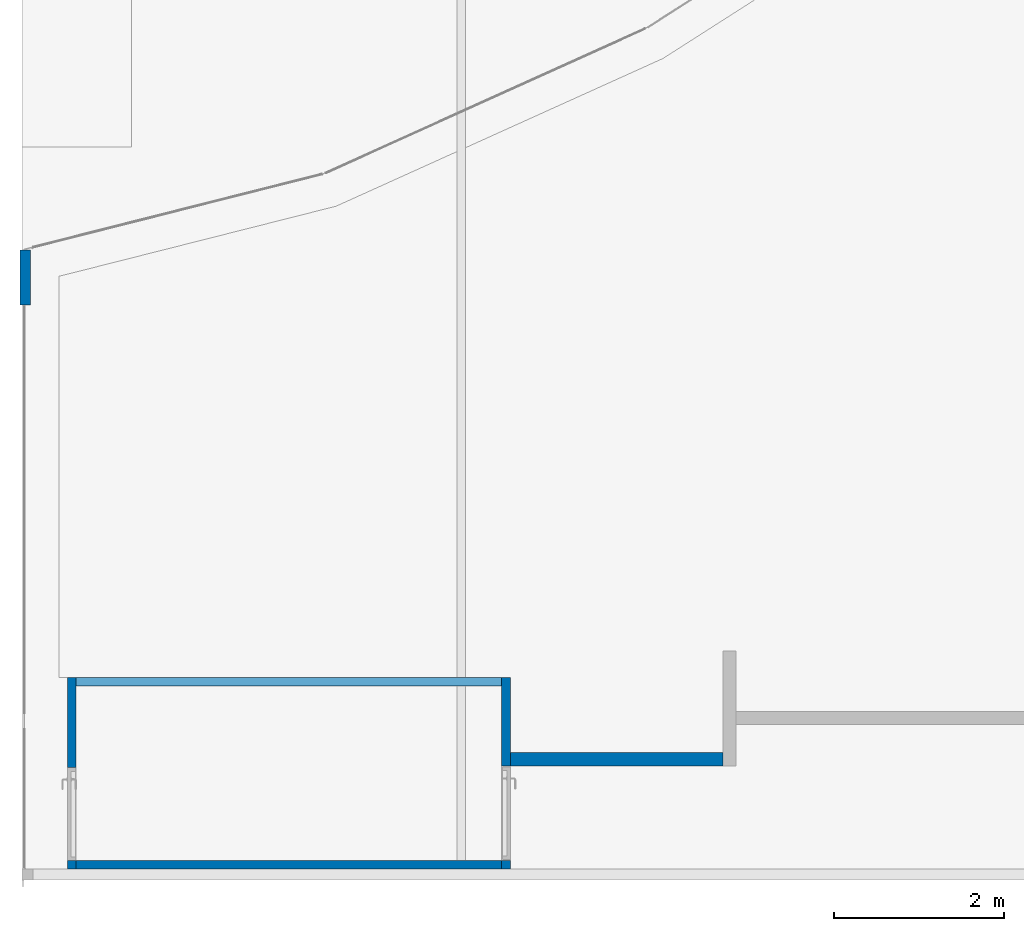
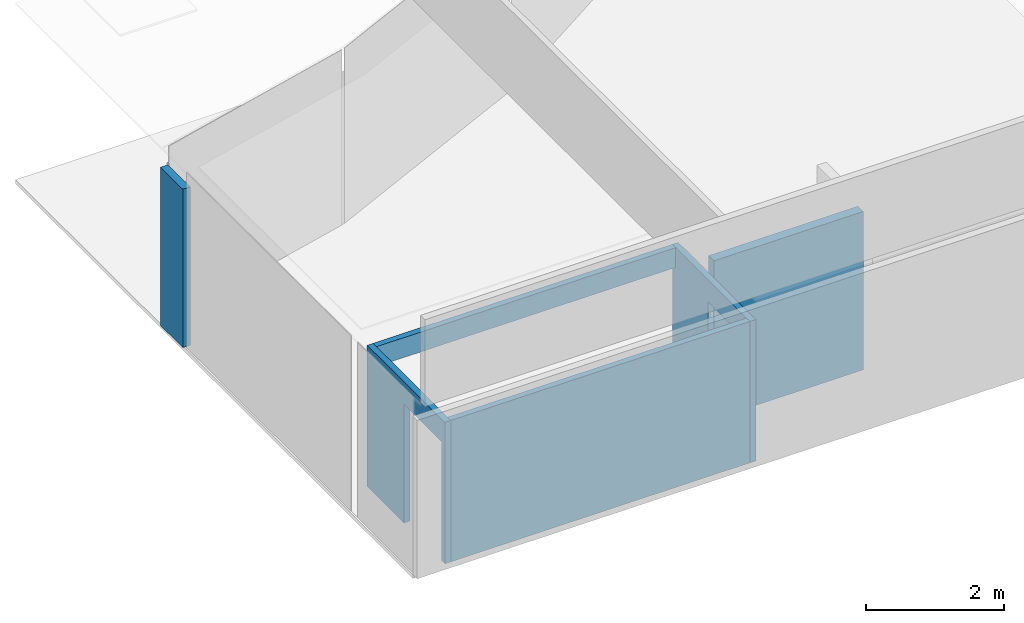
# One storey, part 2 of 7: 6 walls, 2 openings.
"""IFC2X3 building model written with IfcOpenShell, lengths in millimetres."""

from ifc_helpers import new_model, entity, si_unit, converted_unit, derived_unit, direction, frame, frame_2d, origin, origin_with_axes, place, context, subcontext, project, spatial, rectangle, extrude, clip, halfspace, material, layer, layer_set, layer_usage, type_object, element, save


model = new_model("IFC2X3")

# Units and contexts
model_context = context("Model", 3, precision=0.01, world=frame((0.0, 4.29681676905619e-09, 0.0)), true_north=direction((4.01073788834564e-13, 1.0)))
plan_context = context("Plan", 3, precision=0.01, world=frame((0.0, 4.29681676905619e-09, 0.0)), true_north=direction((4.01073788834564e-13, 1.0)))
body_context = subcontext(model_context, "Body", "Model", "MODEL_VIEW")
ifc_project = project(units=[converted_unit("PLANEANGLEUNIT", "DEGREE", entity("IfcPositiveLengthMeasure", 0.0174532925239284), si_unit("PLANEANGLEUNIT", "RADIAN"), dimensions=[0, 0, 0, 0, 0, 0, 0]), si_unit("AREAUNIT", "SQUARE_METRE"), si_unit("LENGTHUNIT", "METRE", prefix="MILLI"), si_unit("MASSUNIT", "GRAM", prefix="KILO"), si_unit("POWERUNIT", "WATT"), si_unit("PRESSUREUNIT", "PASCAL", prefix="KILO"), si_unit("FORCEUNIT", "NEWTON", prefix="KILO"), si_unit("ELECTRICVOLTAGEUNIT", "VOLT"), si_unit("ELECTRICCURRENTUNIT", "AMPERE"), si_unit("THERMODYNAMICTEMPERATUREUNIT", "DEGREE_CELSIUS"), si_unit("TIMEUNIT", "SECOND"), si_unit("VOLUMEUNIT", "CUBIC_METRE"), derived_unit("LINEARVELOCITYUNIT", [(si_unit("LENGTHUNIT", "METRE"), 1), (si_unit("TIMEUNIT", "SECOND"), -1)]), derived_unit("VOLUMETRICFLOWRATEUNIT", [(si_unit("VOLUMEUNIT", "CUBIC_METRE"), 1), (si_unit("TIMEUNIT", "SECOND"), -1)]), derived_unit("THERMALTRANSMITTANCEUNIT", [(si_unit("POWERUNIT", "WATT"), 1), (si_unit("THERMODYNAMICTEMPERATUREUNIT", "KELVIN"), -1), (si_unit("AREAUNIT", "SQUARE_METRE"), -1)]), derived_unit("SOUNDPRESSUREUNIT", [(si_unit("PRESSUREUNIT", "PASCAL"), 1)])], contexts=[model_context, plan_context])

# Site, building, storey
site_placement = place(None, origin_with_axes())
site = spatial("IfcSite", under=ifc_project, at=site_placement, Name="ENGM", CompositionType="ELEMENT")
building_placement = place(site_placement, origin_with_axes())
building = spatial("IfcBuilding", under=site, at=building_placement, Name="TS", CompositionType="ELEMENT")
storey_placement = place(building_placement, frame((0.0, 0.0, 210900.0), z_axis=(0.0, 0.0, 1.0), x_axis=(1.0, 0.0, 0.0)))
storey = spatial("IfcBuildingStorey", under=building, at=storey_placement, Name="Nivå F", CompositionType="ELEMENT", Elevation=210900.0)

# Walls
ifc_material_1 = material(Name="_NSW Standard")
ifc_layer_1 = layer(ifc_material_1, 13.0)
ifc_material_2 = material(Name="_NSW Stålstender, uisolert")
ifc_layer_2 = layer(ifc_material_2, 100.0)
ifc_material_3 = material(Name="Plate - Gips")
ifc_layer_3 = layer(ifc_material_3, 13.0)
ifc_layer_set_1 = layer_set([ifc_layer_1, ifc_layer_2, ifc_layer_3], Name="Basic Wall:A241 - MVM-100 (100/100 m-m)")
ifc_layer_usage_1 = layer_usage(ifc_layer_set_1, "AXIS2", "NEGATIVE", 63.0)
wall_type_1 = type_object("IfcWallType", Name="Basic Wall:A241 - MVM-100 (100/100 m-m)", PredefinedType="STANDARD", material=ifc_layer_set_1)
wall_1_placement = place(storey_placement, frame((714479.98749998, 441969.819836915, 0.0), z_axis=(0.0, 0.0, 1.0), x_axis=(0.0, -1.0, 0.0)))
element("IfcWallStandardCase", 1, at=wall_1_placement, inside=storey, type_object=wall_type_1, material=ifc_layer_usage_1, Name="Basic Wall:A241 - MVM-100 (100/100 m-m)", ObjectType="Basic Wall:A241 - MVM-100 (100/100 m-m)", context=body_context, shape_type="Clipping", body=[
    clip(extrude(rectangle(XDim=645.000000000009, YDim=125.999999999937, at=frame_2d((322.500000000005, 0.0), x_axis=(-1.0, 0.0))), origin(), (0.0, 0.0, 1.0), 2799.99999999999), halfspace(origin(), True)),
])
ifc_layer_4 = layer(ifc_material_3, 12.5)
ifc_material_4 = material(Name="_NSW X-finer")
ifc_layer_5 = layer(ifc_material_4, 15.0)
ifc_material_5 = material(Name="_NSW Stålstender, isolert UTEN SKRAVUR")
ifc_layer_6 = layer(ifc_material_5, 100.0)
ifc_layer_7 = layer(ifc_material_4, 15.0)
ifc_layer_8 = layer(ifc_material_3, 12.5)
ifc_layer_set_2 = layer_set([ifc_layer_4, ifc_layer_5, ifc_layer_6, ifc_layer_7, ifc_layer_8], Name="Basic Wall:A241 - SXVXS-100")
ifc_layer_usage_2 = layer_usage(ifc_layer_set_2, "AXIS2", "NEGATIVE", 77.5)
wall_type_2 = type_object("IfcWallType", Name="Basic Wall:A241 - SXVXS-100", PredefinedType="STANDARD", material=ifc_layer_set_2)
wall_2_placement = place(storey_placement, frame((720174.987499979, 435992.0, 0.0), z_axis=(0.0, 0.0, 1.0), x_axis=(1.0, 0.0, 0.0)))
element("IfcWallStandardCase", 2, at=wall_2_placement, inside=storey, type_object=wall_type_2, material=ifc_layer_usage_2, Name="Basic Wall:A241 - SXVXS-100", ObjectType="Basic Wall:A241 - SXVXS-100", context=body_context, shape_type="SweptSolid", body=[
    extrude(rectangle(XDim=2496.99999999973, YDim=155.000000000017, at=frame_2d((1248.49999999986, 0.0), x_axis=(-1.0, 0.0))), origin(), (0.0, 0.0, 1.0), 2799.99999999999),
])

# Wall, opening
ifc_material_6 = material(Name="Kjølevegg")
ifc_layer_9 = layer(ifc_material_6, 100.0)
ifc_layer_set_3 = layer_set([ifc_layer_9], Name="Basic Wall:A241 - KJØLEVEGG-100MM")
ifc_layer_usage_3 = layer_usage(ifc_layer_set_3, "AXIS2", "NEGATIVE", 50.0)
wall_type_3 = type_object("IfcWallType", Name="Basic Wall:A241 - KJØLEVEGG-100MM", PredefinedType="STANDARD", material=ifc_layer_set_3)
wall_3_placement = place(storey_placement, frame((720124.987499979, 434701.999999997, 0.0), z_axis=(0.0, 0.0, 1.0), x_axis=(0.0, 1.0, 0.0)))
wall_3 = element("IfcWallStandardCase", 3, at=wall_3_placement, inside=storey, type_object=wall_type_3, material=ifc_layer_usage_3, Name="Basic Wall:A241 - KJØLEVEGG-100MM", ObjectType="Basic Wall:A241 - KJØLEVEGG-100MM", context=body_context, shape_type="SweptSolid", body=[
    extrude(rectangle(XDim=2250.00000000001, YDim=100.000000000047, at=frame_2d((1125.0, 0.0), x_axis=(1.0, 0.0))), origin(), (0.0, 0.0, 1.0), 2499.99999999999),
])
opening_1_placement = place(wall_3_placement, frame((1210.0, 50.0, 0.0), z_axis=(0.0, 0.0, 1.0), x_axis=(1.0, 0.0, 0.0)))
element("IfcOpeningElement", 4, at=opening_1_placement, cuts=wall_3, Name="A20 - Slagdør - Enkel2:A243 - DI_LTO - 1090 x 2090 mm:1", ObjectType="Opening", context=body_context, shape_type="SweptSolid", body=[
    extrude(rectangle(XDim=2109.99999999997, YDim=1110.0, at=frame_2d((1054.99999999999, 555.0), x_axis=(1.0, 0.0))), frame((0.0, 0.0, 0.0), z_axis=(0.0, -1.0, 0.0), x_axis=(0.0, 0.0, 1.0)), (0.0, 0.0, 1.0), 100.0),
])

ifc_layer_usage_4 = layer_usage(ifc_layer_set_3, "AXIS2", "NEGATIVE", 50.0)
wall_4_placement = place(storey_placement, frame((715024.987499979, 434701.999999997, 0.0), z_axis=(0.0, 0.0, 1.0), x_axis=(0.0, 1.0, 0.0)))
wall_4 = element("IfcWallStandardCase", 5, at=wall_4_placement, inside=storey, type_object=wall_type_3, material=ifc_layer_usage_4, Name="Basic Wall:A241 - KJØLEVEGG-100MM", ObjectType="Basic Wall:A241 - KJØLEVEGG-100MM", context=body_context, shape_type="SweptSolid", body=[
    extrude(rectangle(XDim=2250.00000000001, YDim=100.000000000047, at=frame_2d((1125.0, 0.0), x_axis=(1.0, 0.0))), origin(), (0.0, 0.0, 1.0), 2499.99999999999),
])
opening_2_placement = place(wall_4_placement, frame((100.0, -50.0, 0.0), z_axis=(0.0, 0.0, 1.0), x_axis=(1.0, 0.0, 0.0)))
element("IfcOpeningElement", 6, at=opening_2_placement, cuts=wall_4, Name="A20 - Slagdør - Enkel2:A243 - DI_LTO - 1090 x 2090 mm:1", ObjectType="Opening", context=body_context, shape_type="SweptSolid", body=[
    extrude(rectangle(XDim=2099.9999999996, YDim=1089.99999999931, at=frame_2d((1049.9999999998, 544.999999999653), x_axis=(1.0, 0.0))), frame((0.0, 0.0, 0.0), z_axis=(0.0, 1.0, 0.0), x_axis=(0.0, 0.0, 1.0)), (0.0, 0.0, 1.0), 100.0),
])

# Walls
ifc_layer_usage_5 = layer_usage(ifc_layer_set_3, "AXIS2", "NEGATIVE", 50.0)
wall_5_placement = place(storey_placement, frame((715074.987499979, 434751.999999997, 0.0), z_axis=(0.0, 0.0, 1.0), x_axis=(1.0, 0.0, 0.0)))
element("IfcWallStandardCase", 7, at=wall_5_placement, inside=storey, type_object=wall_type_3, material=ifc_layer_usage_5, Name="Basic Wall:A241 - KJØLEVEGG-100MM", ObjectType="Basic Wall:A241 - KJØLEVEGG-100MM", context=body_context, shape_type="SweptSolid", body=[
    extrude(rectangle(XDim=4999.99999999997, YDim=99.9999999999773, at=frame_2d((2499.99999999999, 3.46531692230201e-11), x_axis=(-1.0, 0.0))), origin(), (0.0, 0.0, 1.0), 2499.99999999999),
])
ifc_layer_usage_6 = layer_usage(ifc_layer_set_3, "AXIS2", "NEGATIVE", 50.0)
wall_6_placement = place(storey_placement, frame((715074.987499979, 436901.999999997, 2150.0), z_axis=(0.0, 0.0, 1.0), x_axis=(1.0, 0.0, 0.0)))
element("IfcWallStandardCase", 8, at=wall_6_placement, inside=storey, type_object=wall_type_3, material=ifc_layer_usage_6, Name="Basic Wall:A241 - KJØLEVEGG-100MM", ObjectType="Basic Wall:A241 - KJØLEVEGG-100MM", context=body_context, shape_type="SweptSolid", body=[
    extrude(rectangle(XDim=99.9999999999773, YDim=4999.99999999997, at=frame_2d((3.46531692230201e-11, 6.93489710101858e-11), x_axis=(1.0, 0.0))), frame((2500.0, 0.0, 0.0), z_axis=(0.0, 0.0, 1.0), x_axis=(0.0, 1.0, 0.0)), (0.0, 0.0, 1.0), 349.99999999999),
])

save(model, "model.ifc")
